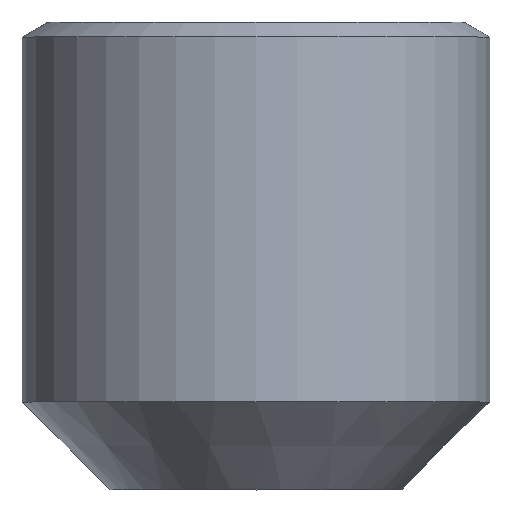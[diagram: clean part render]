
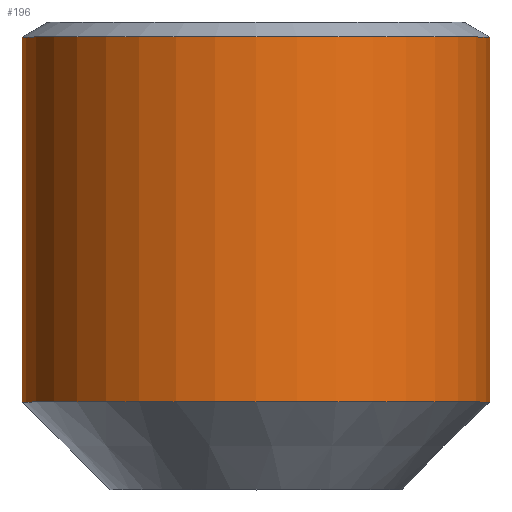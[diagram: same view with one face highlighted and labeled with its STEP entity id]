
A CAD part, top view. The second image highlights one B-rep face of the part: STEP entity #196.
In plain terms, the highlighted cylindrical face has radius 2 mm (diameter 4 mm), a full revolution.
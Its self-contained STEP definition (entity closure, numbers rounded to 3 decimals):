
#31=CYLINDRICAL_SURFACE('',#230,2.);
#33=FACE_OUTER_BOUND('',#45,.T.);
#45=EDGE_LOOP('',(#142,#143,#144,#145));
#58=LINE('',#303,#74);
#74=VECTOR('',#256,2.);
#90=CIRCLE('',#229,2.);
#91=CIRCLE('',#231,2.);
#94=VERTEX_POINT('',#297);
#95=VERTEX_POINT('',#301);
#113=EDGE_CURVE('',#94,#94,#90,.T.);
#114=EDGE_CURVE('',#95,#95,#91,.T.);
#115=EDGE_CURVE('',#95,#94,#58,.T.);
#142=ORIENTED_EDGE('',*,*,#114,.F.);
#143=ORIENTED_EDGE('',*,*,#115,.T.);
#144=ORIENTED_EDGE('',*,*,#113,.F.);
#145=ORIENTED_EDGE('',*,*,#115,.F.);
#196=ADVANCED_FACE('',(#33),#31,.T.);
#229=AXIS2_PLACEMENT_3D('',#299,#250,#251);
#230=AXIS2_PLACEMENT_3D('',#300,#252,#253);
#231=AXIS2_PLACEMENT_3D('',#302,#254,#255);
#250=DIRECTION('center_axis',(0.,-1.,0.));
#251=DIRECTION('ref_axis',(1.,0.,0.));
#252=DIRECTION('center_axis',(0.,1.,0.));
#253=DIRECTION('ref_axis',(1.,0.,0.));
#254=DIRECTION('center_axis',(0.,1.,0.));
#255=DIRECTION('ref_axis',(1.,0.,0.));
#256=DIRECTION('',(0.,-1.,0.));
#297=CARTESIAN_POINT('',(-2.,0.75,0.));
#299=CARTESIAN_POINT('Origin',(0.,0.75,0.));
#300=CARTESIAN_POINT('Origin',(0.,0.,0.));
#301=CARTESIAN_POINT('',(-2.,3.874,0.));
#302=CARTESIAN_POINT('Origin',(0.,3.874,0.));
#303=CARTESIAN_POINT('',(-2.,0.,0.));
